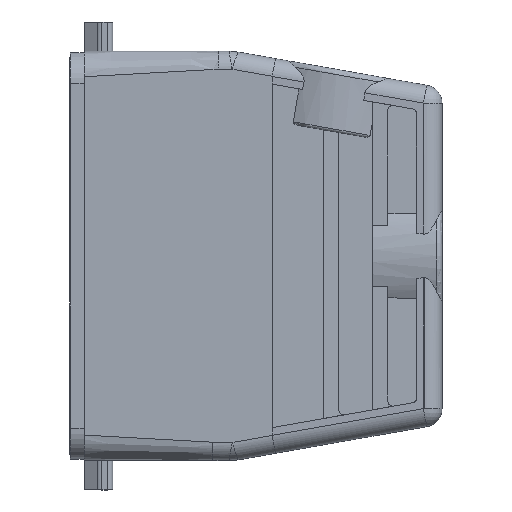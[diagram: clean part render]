
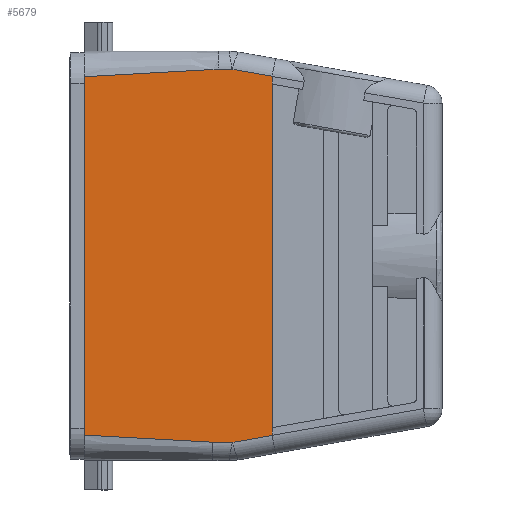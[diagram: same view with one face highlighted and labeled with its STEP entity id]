
A CAD part, top view. The second image highlights one B-rep face of the part: STEP entity #5679.
In plain terms, the highlighted planar face has unit normal (0, 0, -1).
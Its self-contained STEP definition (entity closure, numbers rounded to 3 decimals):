
#128 = ORIENTED_EDGE ( 'NONE', *, *, #10306, .T. ) ;
#189 = EDGE_CURVE ( 'NONE', #761, #8279, #2576, .T. ) ;
#267 = DIRECTION ( 'NONE',  ( 0., 1., 0. ) ) ;
#281 = VERTEX_POINT ( 'NONE', #8563 ) ;
#327 = ORIENTED_EDGE ( 'NONE', *, *, #6367, .F. ) ;
#434 = CARTESIAN_POINT ( 'NONE',  ( 37.501, 34.857, 14.75 ) ) ;
#438 = CARTESIAN_POINT ( 'NONE',  ( 37.5, -39.75, 14.75 ) ) ;
#505 = LINE ( 'NONE', #438, #7251 ) ;
#589 = CARTESIAN_POINT ( 'NONE',  ( 0., 36.25, 14.75 ) ) ;
#642 = CARTESIAN_POINT ( 'NONE',  ( 29.694, 36.25, 14.75 ) ) ;
#761 = VERTEX_POINT ( 'NONE', #10217 ) ;
#791 = VECTOR ( 'NONE', #6677, 1000. ) ;
#845 = VERTEX_POINT ( 'NONE', #6307 ) ;
#929 = CARTESIAN_POINT ( 'NONE',  ( 37.5, -34.848, 14.75 ) ) ;
#1152 = EDGE_CURVE ( 'NONE', #2514, #7205, #505, .T. ) ;
#1260 = LINE ( 'NONE', #642, #1636 ) ;
#1378 = DIRECTION ( 'NONE',  ( -0.998, 0.055, 0. ) ) ;
#1430 = VERTEX_POINT ( 'NONE', #929 ) ;
#1437 = CARTESIAN_POINT ( 'NONE',  ( 37.501, -34.865, 14.75 ) ) ;
#1598 = VERTEX_POINT ( 'NONE', #9953 ) ;
#1636 = VECTOR ( 'NONE', #6251, 1000. ) ;
#1794 = CARTESIAN_POINT ( 'NONE',  ( 0., -36.25, 14.75 ) ) ;
#1899 = ORIENTED_EDGE ( 'NONE', *, *, #2405, .T. ) ;
#1954 = VECTOR ( 'NONE', #1378, 1000. ) ;
#2200 = VECTOR ( 'NONE', #8792, 1000. ) ;
#2255 = AXIS2_PLACEMENT_3D ( 'NONE', #5783, #3484, #5855 ) ;
#2377 = EDGE_CURVE ( 'NONE', #281, #10478, #5434, .T. ) ;
#2405 = EDGE_CURVE ( 'NONE', #6040, #5210, #5156, .T. ) ;
#2514 = VERTEX_POINT ( 'NONE', #3847 ) ;
#2576 = B_SPLINE_CURVE_WITH_KNOTS ( 'NONE', 3,
 ( #7737, #2847, #434, #8533 ),
 .UNSPECIFIED., .F., .F.,
 ( 4, 4 ),
 ( 0., 1. ),
 .UNSPECIFIED. ) ;
#2829 = LINE ( 'NONE', #9682, #2200 ) ;
#2847 = CARTESIAN_POINT ( 'NONE',  ( 37.501, 34.865, 14.75 ) ) ;
#2930 = ORIENTED_EDGE ( 'NONE', *, *, #7307, .F. ) ;
#3447 = PLANE ( 'NONE',  #2255 ) ;
#3484 = DIRECTION ( 'NONE',  ( 0., 0., -1. ) ) ;
#3816 = CARTESIAN_POINT ( 'NONE',  ( 37.5, -33.35, 14.75 ) ) ;
#3847 = CARTESIAN_POINT ( 'NONE',  ( 37.5, 33.35, 14.75 ) ) ;
#4272 = CARTESIAN_POINT ( 'NONE',  ( 37.5, 0., 14.75 ) ) ;
#4310 = LINE ( 'NONE', #1794, #7486 ) ;
#4330 = CARTESIAN_POINT ( 'NONE',  ( 29.694, -36.25, 14.75 ) ) ;
#4340 = DIRECTION ( 'NONE',  ( -1., 0., 0. ) ) ;
#4540 = CARTESIAN_POINT ( 'NONE',  ( 26., -36.25, 14.75 ) ) ;
#4609 = LINE ( 'NONE', #4272, #9972 ) ;
#4733 = CARTESIAN_POINT ( 'NONE',  ( 37.502, -34.873, 14.75 ) ) ;
#4871 = LINE ( 'NONE', #6961, #1954 ) ;
#4893 = VERTEX_POINT ( 'NONE', #10093 ) ;
#5008 = ORIENTED_EDGE ( 'NONE', *, *, #8054, .F. ) ;
#5054 = EDGE_CURVE ( 'NONE', #5210, #1598, #4871, .T. ) ;
#5156 = B_SPLINE_CURVE_WITH_KNOTS ( 'NONE', 3,
 ( #4540, #5245, #5346, #10178 ),
 .UNSPECIFIED., .F., .F.,
 ( 4, 4 ),
 ( 0., 1. ),
 .UNSPECIFIED. ) ;
#5162 = LINE ( 'NONE', #9941, #8618 ) ;
#5210 = VERTEX_POINT ( 'NONE', #9832 ) ;
#5245 = CARTESIAN_POINT ( 'NONE',  ( 26., -36.231, 14.75 ) ) ;
#5291 = VECTOR ( 'NONE', #8535, 1000. ) ;
#5346 = CARTESIAN_POINT ( 'NONE',  ( 26., -36.213, 14.75 ) ) ;
#5434 = LINE ( 'NONE', #6108, #5291 ) ;
#5552 = DIRECTION ( 'NONE',  ( 1., 0., 0. ) ) ;
#5679 = ADVANCED_FACE ( 'NONE', ( #5883 ), #3447, .T. ) ;
#5783 = CARTESIAN_POINT ( 'NONE',  ( 0., -39.75, 14.75 ) ) ;
#5855 = DIRECTION ( 'NONE',  ( -1., 0., 0. ) ) ;
#5883 = FACE_OUTER_BOUND ( 'NONE', #7986, .T. ) ;
#5911 = DIRECTION ( 'NONE',  ( 0.998, 0.055, 0. ) ) ;
#5913 = ORIENTED_EDGE ( 'NONE', *, *, #8454, .T. ) ;
#5994 = VECTOR ( 'NONE', #6510, 1000. ) ;
#6040 = VERTEX_POINT ( 'NONE', #8988 ) ;
#6083 = DIRECTION ( 'NONE',  ( 0., -1., 0. ) ) ;
#6108 = CARTESIAN_POINT ( 'NONE',  ( 26., 36.194, 14.75 ) ) ;
#6120 = LINE ( 'NONE', #9944, #791 ) ;
#6240 = VECTOR ( 'NONE', #5552, 1000. ) ;
#6251 = DIRECTION ( 'NONE',  ( 0.985, -0.174, 0. ) ) ;
#6307 = CARTESIAN_POINT ( 'NONE',  ( 37.502, -34.873, 14.75 ) ) ;
#6367 = EDGE_CURVE ( 'NONE', #2514, #8279, #4609, .T. ) ;
#6510 = DIRECTION ( 'NONE',  ( -0.985, -0.174, 0. ) ) ;
#6550 = ORIENTED_EDGE ( 'NONE', *, *, #5054, .T. ) ;
#6565 = VERTEX_POINT ( 'NONE', #4330 ) ;
#6633 = ORIENTED_EDGE ( 'NONE', *, *, #9070, .T. ) ;
#6677 = DIRECTION ( 'NONE',  ( 0., 1., 0. ) ) ;
#6961 = CARTESIAN_POINT ( 'NONE',  ( 13.5, -35.5, 14.75 ) ) ;
#7168 = CARTESIAN_POINT ( 'NONE',  ( 37.5, -34.848, 14.75 ) ) ;
#7205 = VERTEX_POINT ( 'NONE', #3816 ) ;
#7251 = VECTOR ( 'NONE', #6083, 1000. ) ;
#7307 = EDGE_CURVE ( 'NONE', #4893, #1598, #2829, .T. ) ;
#7486 = VECTOR ( 'NONE', #4340, 1000. ) ;
#7540 = LINE ( 'NONE', #8039, #5994 ) ;
#7737 = CARTESIAN_POINT ( 'NONE',  ( 37.502, 34.873, 14.75 ) ) ;
#7854 = EDGE_CURVE ( 'NONE', #845, #6565, #7540, .T. ) ;
#7986 = EDGE_LOOP ( 'NONE', ( #6550, #2930, #128, #9362, #5913, #6633, #8953, #327, #8688, #5008, #9373, #8340, #10258, #1899 ) ) ;
#8039 = CARTESIAN_POINT ( 'NONE',  ( 37.502, -34.873, 14.75 ) ) ;
#8054 = EDGE_CURVE ( 'NONE', #1430, #7205, #6120, .T. ) ;
#8279 = VERTEX_POINT ( 'NONE', #9486 ) ;
#8340 = ORIENTED_EDGE ( 'NONE', *, *, #7854, .T. ) ;
#8373 = CARTESIAN_POINT ( 'NONE',  ( 27., 36.25, 14.75 ) ) ;
#8454 = EDGE_CURVE ( 'NONE', #10478, #8721, #9435, .T. ) ;
#8533 = CARTESIAN_POINT ( 'NONE',  ( 37.5, 34.848, 14.75 ) ) ;
#8535 = DIRECTION ( 'NONE',  ( 0.998, 0.055, 0. ) ) ;
#8563 = CARTESIAN_POINT ( 'NONE',  ( 26., 36.194, 14.75 ) ) ;
#8618 = VECTOR ( 'NONE', #5911, 1000. ) ;
#8688 = ORIENTED_EDGE ( 'NONE', *, *, #1152, .T. ) ;
#8721 = VERTEX_POINT ( 'NONE', #10211 ) ;
#8792 = DIRECTION ( 'NONE',  ( 0., -1., 0. ) ) ;
#8931 = EDGE_CURVE ( 'NONE', #6565, #6040, #4310, .T. ) ;
#8953 = ORIENTED_EDGE ( 'NONE', *, *, #189, .T. ) ;
#8988 = CARTESIAN_POINT ( 'NONE',  ( 26., -36.25, 14.75 ) ) ;
#9070 = EDGE_CURVE ( 'NONE', #8721, #761, #1260, .T. ) ;
#9086 = B_SPLINE_CURVE_WITH_KNOTS ( 'NONE', 3,
 ( #7168, #10371, #1437, #4733 ),
 .UNSPECIFIED., .F., .F.,
 ( 4, 4 ),
 ( 0., 1. ),
 .UNSPECIFIED. ) ;
#9362 = ORIENTED_EDGE ( 'NONE', *, *, #2377, .T. ) ;
#9373 = ORIENTED_EDGE ( 'NONE', *, *, #9741, .T. ) ;
#9435 = LINE ( 'NONE', #589, #6240 ) ;
#9486 = CARTESIAN_POINT ( 'NONE',  ( 37.5, 34.848, 14.75 ) ) ;
#9682 = CARTESIAN_POINT ( 'NONE',  ( 1., 0., 14.75 ) ) ;
#9741 = EDGE_CURVE ( 'NONE', #1430, #845, #9086, .T. ) ;
#9832 = CARTESIAN_POINT ( 'NONE',  ( 26., -36.194, 14.75 ) ) ;
#9941 = CARTESIAN_POINT ( 'NONE',  ( 1., 34.806, 14.75 ) ) ;
#9944 = CARTESIAN_POINT ( 'NONE',  ( 37.5, 0., 14.75 ) ) ;
#9953 = CARTESIAN_POINT ( 'NONE',  ( 1., -34.806, 14.75 ) ) ;
#9972 = VECTOR ( 'NONE', #267, 1000. ) ;
#10093 = CARTESIAN_POINT ( 'NONE',  ( 1., 34.806, 14.75 ) ) ;
#10178 = CARTESIAN_POINT ( 'NONE',  ( 26., -36.194, 14.75 ) ) ;
#10211 = CARTESIAN_POINT ( 'NONE',  ( 29.694, 36.25, 14.75 ) ) ;
#10217 = CARTESIAN_POINT ( 'NONE',  ( 37.502, 34.873, 14.75 ) ) ;
#10258 = ORIENTED_EDGE ( 'NONE', *, *, #8931, .T. ) ;
#10306 = EDGE_CURVE ( 'NONE', #4893, #281, #5162, .T. ) ;
#10371 = CARTESIAN_POINT ( 'NONE',  ( 37.501, -34.857, 14.75 ) ) ;
#10478 = VERTEX_POINT ( 'NONE', #8373 ) ;
